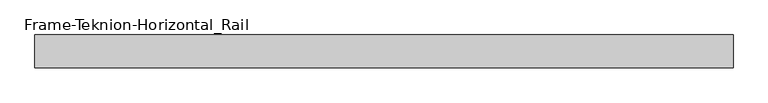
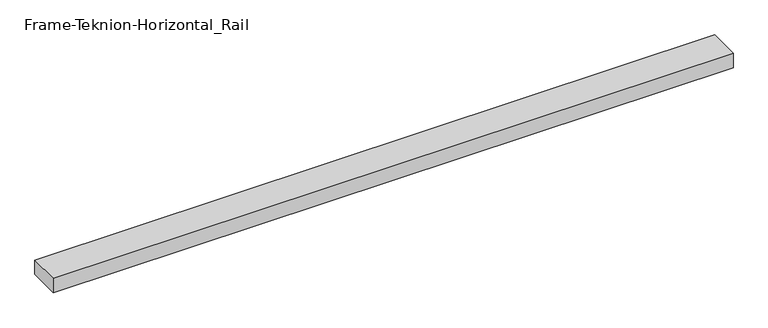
"""IFC4 building model written with IfcOpenShell, lengths in millimetres: proxy geometry, Frame-Teknion-Horizontal_Rail : FPKK."""

from ifc_helpers import new_model, si_unit, frame, origin, place, context, project, spatial, polyline, outline, extrude, source, transform, mapped, element, save


def frame_teknion_horizontal_rail_96f289ab(model_context):
    return source(origin(), model_context, "Body", "SweptSolid", [
        extrude(outline(polyline([(-624.1851562, -29.2199219), (-624.1851562, 29.2199219), (624.1851563, 29.2199219), (624.1851563, -29.2199219), (-624.1851562, -29.2199219)])), frame((0.0, 0.0, -13.9898438), z_axis=(0.0, 0.0, 1.0), x_axis=(1.0, 0.0, 0.0)), (0.0, 0.0, 1.0), 27.9796875),
    ])


if __name__ == "__main__":
    model = new_model("IFC4")
    model_context = context("Model", 3, world=origin())
    ifc_project = project(units=[si_unit("LENGTHUNIT", "METRE", prefix="MILLI")], contexts=[model_context])
    site = spatial("IfcSite", under=ifc_project)
    building = spatial("IfcBuilding", under=site)
    placement = place(None, origin())
    frame_teknion_horizontal_rail_shape = frame_teknion_horizontal_rail_96f289ab(model_context)
    element("IfcBuildingElementProxy", 1, Name="Frame-Teknion-Horizontal_Rail : FPKK", ObjectType="Frame-Teknion-Horizontal_Rail : FPKK", at=placement, inside=building, context=model_context, shape_type="MappedRepresentation", body=[
        mapped(frame_teknion_horizontal_rail_shape, transform((0.0, 0.0, 0.0), x_axis=(1.0, 0.0, 0.0), y_axis=(0.0, 1.0, 0.0), z_axis=(0.0, 0.0, 1.0))),
    ])
    save(model, "model.ifc")
